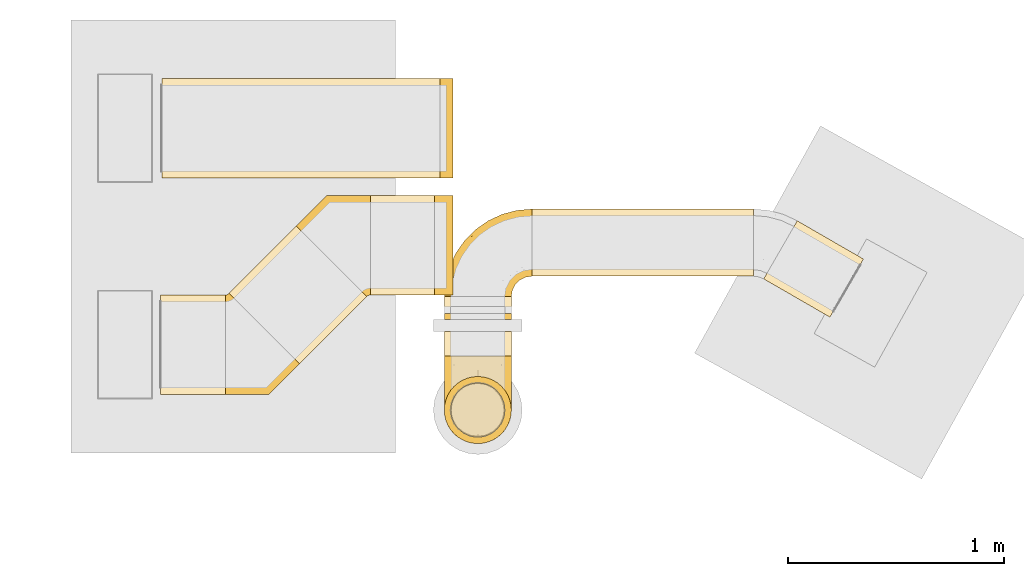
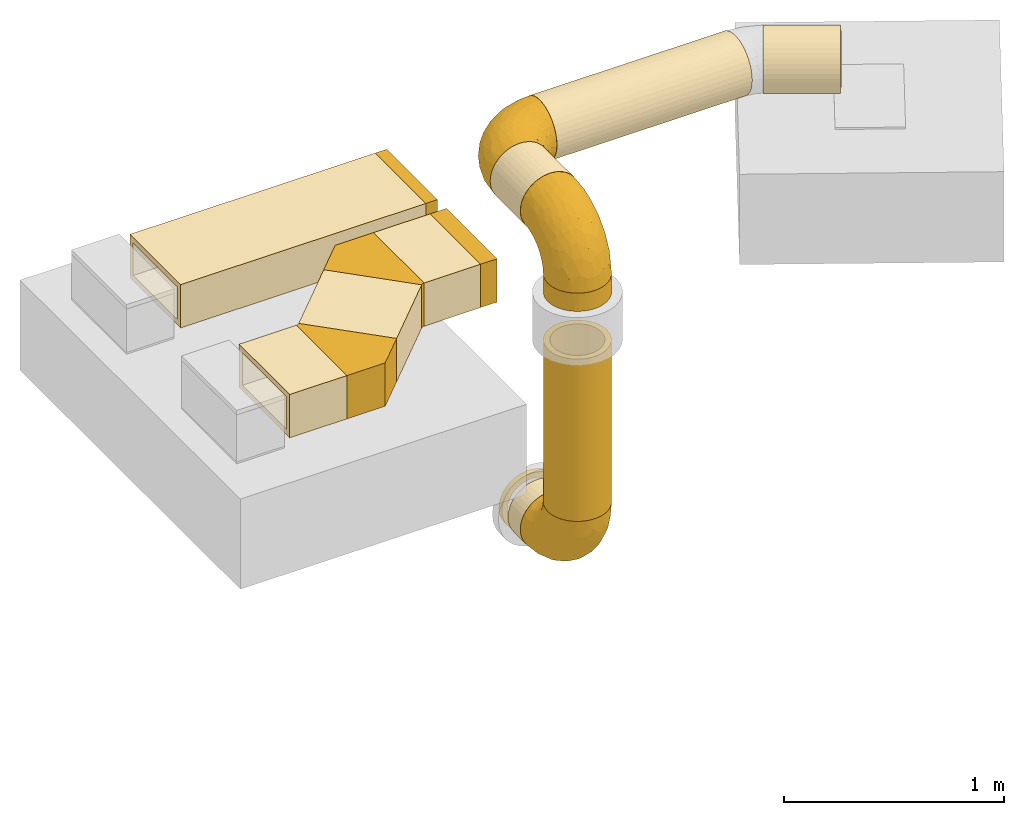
# One storey, part 1 of 9: 18 coverings.
"""IFC2X3 building model written with IfcOpenShell, lengths in millimetres."""

from ifc_helpers import new_model, entity, si_unit, converted_unit, derived_unit, direction, frame, origin_with_axes, origin_2d_with_axis, place, context, subcontext, project, spatial, hollow_rectangle, hollow_circle, extrude, open_shell, surface_model, source, transform, mapped, element, save


model = new_model("IFC2X3")

# Units and contexts
model_context = context("Model", 3, precision=0.01, world=frame((0.0, 4.29681676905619e-09, 0.0)), true_north=direction((4.01073788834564e-13, 1.0)))
plan_context = context("Plan", 3, precision=0.01, world=frame((0.0, 4.29681676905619e-09, 0.0)), true_north=direction((4.01073788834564e-13, 1.0)))
body_context = subcontext(model_context, "Body", "Model", "MODEL_VIEW")
ifc_project = project(units=[converted_unit("PLANEANGLEUNIT", "DEGREE", entity("IfcPositiveLengthMeasure", 0.0174532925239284), si_unit("PLANEANGLEUNIT", "RADIAN"), dimensions=[0, 0, 0, 0, 0, 0, 0]), si_unit("AREAUNIT", "SQUARE_METRE"), si_unit("LENGTHUNIT", "METRE", prefix="MILLI"), si_unit("MASSUNIT", "GRAM", prefix="KILO"), si_unit("POWERUNIT", "WATT"), si_unit("PRESSUREUNIT", "PASCAL"), si_unit("FORCEUNIT", "NEWTON", prefix="KILO"), si_unit("ELECTRICVOLTAGEUNIT", "VOLT"), si_unit("ELECTRICCURRENTUNIT", "AMPERE"), si_unit("THERMODYNAMICTEMPERATUREUNIT", "DEGREE_CELSIUS"), si_unit("TIMEUNIT", "SECOND"), si_unit("VOLUMEUNIT", "CUBIC_METRE"), derived_unit("LINEARVELOCITYUNIT", [(si_unit("LENGTHUNIT", "METRE"), 1), (si_unit("TIMEUNIT", "SECOND"), -1)]), derived_unit("VOLUMETRICFLOWRATEUNIT", [(si_unit("VOLUMEUNIT", "CUBIC_METRE"), 1), (si_unit("TIMEUNIT", "SECOND"), -1)]), derived_unit("THERMALTRANSMITTANCEUNIT", [(si_unit("POWERUNIT", "WATT"), 1), (si_unit("THERMODYNAMICTEMPERATUREUNIT", "KELVIN"), -1), (si_unit("AREAUNIT", "SQUARE_METRE"), -1)]), derived_unit("SOUNDPRESSUREUNIT", [(si_unit("PRESSUREUNIT", "PASCAL"), 1)])], contexts=[model_context, plan_context])

# Site, building, storey
site_placement = place(None, frame((0.0, -4.29681676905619e-09, 0.0), z_axis=(0.0, 0.0, 1.0), x_axis=(1.0, 0.0, 0.0)))
site = spatial("IfcSite", under=ifc_project, at=site_placement, CompositionType="ELEMENT")
building_placement = place(site_placement, frame((0.0, 4.29681676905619e-09, 0.0), z_axis=(0.0, 0.0, 1.0), x_axis=(1.0, 0.0, 0.0)))
building = spatial("IfcBuilding", under=site, at=building_placement, Name="mc-building", CompositionType="ELEMENT")
storey_placement = place(building_placement, frame((0.0, 0.0, 210200.0), z_axis=(0.0, 0.0, 1.0), x_axis=(1.0, 0.0, 0.0)))
storey = spatial("IfcBuildingStorey", under=building, at=storey_placement, Name="Nivå F -0,7m", CompositionType="ELEMENT", Elevation=210200.0)

# Coverings
shared_shape_1 = source(origin_with_axes(), body_context, "Body", "SweptSolid", [
    extrude(hollow_rectangle(XDim=460.0, YDim=240.0, WallThickness=30.0, at=origin_2d_with_axis()), frame((0.0, 0.0, 0.0), z_axis=(1.0, 0.0, 0.0), x_axis=(0.0, 1.0, 0.0)), (0.0, 0.0, 1.0), 296.5),
])
covering_1_placement = place(storey_placement, frame((523684.47443, 456423.18324, 3350.0), z_axis=(0.0, 0.0, 1.0), x_axis=(1.0, 0.0, 0.0)))
element("IfcCovering", 1, at=covering_1_placement, inside=storey, Name="EI30-30", PredefinedType="INSULATION", context=body_context, shape_type="MappedRepresentation", body=[
    mapped(shared_shape_1, transform((0.0, 0.0, 0.0), scale=1.0)),
])
shared_shape_2 = source(origin_with_axes(), body_context, "Body", "SweptSolid", [
    extrude(hollow_rectangle(XDim=460.0, YDim=240.0, WallThickness=30.0, at=origin_2d_with_axis()), frame((0.0, 0.0, 0.0), z_axis=(1.0, 0.0, 0.0), x_axis=(0.0, 1.0, 0.0)), (0.0, 0.0, 1.0), 439.3),
])
covering_2_placement = place(storey_placement, frame((523505.13707, 456348.89928, 3350.0), z_axis=(0.0, 0.0, 1.0), x_axis=(-0.707106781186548, -0.707106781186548, 0.0)))
element("IfcCovering", 2, at=covering_2_placement, inside=storey, Name="EI30-30", PredefinedType="INSULATION", context=body_context, shape_type="MappedRepresentation", body=[
    mapped(shared_shape_2, transform((0.0, 0.0, 0.0), scale=1.0)),
])
shared_shape_3 = source(origin_with_axes(), body_context, "Body", "SurfaceModel", [
    surface_model("IfcShellBasedSurfaceModel", [(-36.096, 230.0, -120.0), (50.0, 230.0, -120.0), (-36.096, -230.0, -120.0), (50.0, -230.0, -120.0), (-36.096, -230.0, 120.0), (50.0, -230.0, 120.0), (50.0, 230.0, 120.0), (-36.096, 230.0, 120.0)], [open_shell([[[0, 1, 2]], [[3, 2, 1]], [[4, 5, 6]], [[6, 7, 4]], [[3, 1, 6]], [[6, 5, 3]], [[2, 3, 5]], [[5, 4, 2]], [[0, 2, 4]], [[4, 7, 0]], [[1, 0, 6]], [[7, 6, 0]]])]),
])
covering_3_placement = place(storey_placement, frame((524030.93348, 456423.18324, 3350.0), z_axis=(0.0, 0.0, -1.0), x_axis=(-1.0, 0.0, 0.0)))
element("IfcCovering", 3, at=covering_3_placement, inside=storey, Name="EI30-30", PredefinedType="INSULATION", context=body_context, shape_type="MappedRepresentation", body=[
    mapped(shared_shape_3, transform((0.0, 0.0, 0.0), scale=1.0)),
])
shared_shape_4 = source(origin_with_axes(), body_context, "Body", "SweptSolid", [
    extrude(hollow_rectangle(XDim=460.0, YDim=240.0, WallThickness=30.0, at=origin_2d_with_axis()), frame((0.0, 0.0, 0.0), z_axis=(1.0, 0.0, 0.0), x_axis=(0.0, 1.0, 0.0)), (0.0, 0.0, 1.0), 1285.0),
])
covering_4_placement = place(storey_placement, frame((524005.93348, 456964.0, 3350.0), z_axis=(0.0, 0.0, 1.0), x_axis=(-1.0, 0.0, 0.0)))
element("IfcCovering", 4, at=covering_4_placement, inside=storey, Name="EI30-30", PredefinedType="INSULATION", context=body_context, shape_type="MappedRepresentation", body=[
    mapped(shared_shape_4, transform((0.0, 0.0, 0.0), scale=1.0)),
])
shared_shape_5 = source(origin_with_axes(), body_context, "Body", "SurfaceModel", [
    surface_model("IfcShellBasedSurfaceModel", [(-26.91148, 250.0, 152.6459), (0.0, 250.0, 155.0), (-53.01196, 250.0, 145.65278), (-145.65269, 250.0, 53.0122), (-155.0, 250.0, 0.0), (-152.64582, 250.0, 26.91195), (99.63399, 250.0, -118.73529), (134.23249, 250.0, -77.50252), (118.73482, 250.0, -99.63454), (-26.91195, 250.0, -152.64582), (-99.63454, 250.0, -118.73482), (-118.73529, 250.0, -99.63399), (-250.0, 77.5, -134.23394), (-250.0, 134.23394, -77.5), (-250.0, 109.60155, -109.60155), (-250.0, 109.60155, 109.60155), (-250.0, 40.11695, 149.7185), (-250.0, 77.5, 134.23394), (-150.31078, -137.47961, 38.67299), (-179.67248, -148.84714, 0.0), (-111.48184, -130.57551, 0.0), (-250.0, -149.7185, 40.11695), (-250.0, -155.0, 0.0), (130.57551, 111.48184, 0.0), (145.01049, 177.05911, 31.86841), (114.0188, 83.02302, 37.12446), (100.74029, 47.5, 0.0), (-47.5, -100.74029, 0.0), (-83.00007, -114.03065, 37.04192), (10.32898, -60.248, 0.0), (-20.99283, -79.08825, 35.29449), (-183.11942, -134.92229, 65.05), (-191.0855, -93.92643, 119.31754), (-250.0, -77.5, 134.23394), (-250.0, -109.60155, 109.60155), (3.78518, 74.23487, 143.45185), (-49.54875, 49.54875, 151.34078), (-48.89804, 3.01457, 139.04106), (52.55606, 56.70038, 110.16688), (18.59113, 47.09169, 128.53788), (1.69806, -1.69807, 113.1308), (65.9981, 2.35675, 32.86941), (-129.01187, -24.20514, 146.81223), (-117.30413, -78.97391, 114.26733), (-100.74226, -44.96137, 132.41076), (-179.96963, -60.07628, 139.34304), (26.91195, 250.0, 152.64582), (-6.26802, 194.36977, 155.0), (11.73841, 141.12202, 151.34078), (-194.36977, 6.26802, 155.0), (-250.0, 0.0, 155.0), (-250.0, -40.11695, 149.7185), (-167.16928, -117.53346, 89.2134), (-250.0, -134.23394, 77.5), (48.8239, 143.19487, 139.60898), (-141.52906, 24.75778, 155.0), (-19.26822, -49.20189, 87.65463), (43.33387, 11.85264, 87.65463), (77.50252, 250.0, 134.23249), (53.0122, 250.0, 145.65269), (60.248, -10.32898, 0.0), (118.73529, 250.0, 99.63399), (99.63454, 250.0, 118.73482), (106.6963, 176.9469, 104.91009), (-94.12755, 54.54213, 155.0), (148.84714, 179.67248, 0.0), (134.23266, 250.0, 77.50222), (132.00028, 159.3803, 60.7432), (145.65278, 250.0, 53.01196), (152.6459, 250.0, 26.91148), (97.31699, 87.1286, 78.57178), (-90.5967, -106.32507, 65.7685), (77.14782, 127.99364, 119.13315), (155.0, 250.0, 0.0), (-24.75778, 141.52906, 155.0), (-54.54213, 94.12755, 155.0), (-55.66742, -44.08346, 116.27769), (72.83054, 28.50652, 63.24823), (-29.47061, -73.39879, 63.41636), (28.39752, -28.39753, 58.06388), (-101.82394, -94.39247, 91.7654), (-211.50444, 37.10471, 151.30275), (-250.0, 134.23394, 77.5), (-222.10632, 146.9083, 59.31593), (-250.0, 149.7185, 40.11695), (-134.03653, 65.4452, 151.65306), (-172.43212, 44.51154, 151.99785), (-199.10186, 66.2344, 143.20133), (-103.0168, 103.0168, 149.16332), (-104.18631, 144.12888, 138.39182), (-128.48395, 119.82049, 137.30499), (-116.63658, 206.11385, 109.6018), (-147.81259, 184.16703, 86.76144), (-126.21683, 179.79778, 111.4752), (-66.94837, 134.98104, 151.26715), (-192.62287, 157.0072, 64.96066), (-212.31553, 159.02165, 32.63355), (-250.0, 155.0, 0.0), (-231.57502, 154.29333, 27.52808), (-175.09702, 175.09702, 57.17077), (-188.85619, 173.03546, 31.79467), (-152.21684, 227.75786, 40.11475), (-225.06808, 125.44046, 94.35802), (-139.49128, 227.54601, 72.05594), (-118.73482, 250.0, 99.63454), (-134.23249, 250.0, 77.50252), (-161.05532, 208.65752, 30.7628), (-159.64963, 220.64338, 0.0), (-216.88296, 97.9221, 122.96977), (-172.48936, 121.3057, 118.62402), (-143.88489, 158.0686, 109.6018), (-172.1176, 149.40919, 94.60101), (-149.1074, 207.38658, 65.5067), (-44.48695, 166.67228, 152.40639), (-99.63399, 250.0, 118.73529), (-45.23121, 203.93797, 149.71919), (-75.08742, 215.05799, 137.45524), (-79.65543, 179.14375, 140.47743), (-152.85644, 95.39688, 139.57382), (-175.64811, 186.52699, 29.12042), (-194.16041, 173.14339, 0.0), (-77.50222, 250.0, 134.23266), (-163.0453, 192.39798, 52.89026), (-186.1263, 95.2174, 131.18503), (-198.57725, 114.50527, 113.948), (-197.22415, 134.4518, 94.35801), (-173.14339, 194.16041, 0.0), (-160.49011, 167.2314, 87.28456), (-207.40189, 166.39651, 0.0), (-220.64338, 159.64963, 0.0), (-6.26802, 194.36977, -155.0), (-45.23159, 203.93792, -149.7191), (-231.57502, 154.29333, -27.52809), (-79.65579, 179.14361, -140.4773), (-104.18615, 144.12866, -138.39195), (-126.21663, 179.79709, -111.4757), (-250.0, 149.7185, -40.11695), (-222.10645, 146.90827, -59.31593), (-212.31553, 159.02163, -32.63362), (-197.22448, 134.45163, -94.35802), (-225.06828, 125.44042, -94.35802), (-209.34959, 99.76029, -122.96977), (-188.85591, 173.03582, -31.79413), (-175.64795, 186.52719, -29.12039), (-54.54213, 94.12755, -155.0), (-66.94837, 134.98104, -151.26715), (-24.75778, 141.52906, -155.0), (-250.0, 0.0, -155.0), (-250.0, 40.11695, -149.7185), (-212.58185, 33.05708, -152.09783), (-218.84, 61.87911, -143.20132), (-192.08237, 79.96749, -138.10323), (-139.4915, 227.54621, -72.05544), (-116.63717, 206.11369, -109.6013), (-149.10742, 207.38685, -65.50643), (-152.21691, 227.75797, -40.11439), (-152.85642, 95.39688, -139.57382), (-134.03653, 65.44519, -151.65306), (-181.34634, 53.79909, -149.16332), (-54.25738, 169.08861, -150.22059), (-94.12755, 54.54213, -155.0), (-141.52906, 24.75778, -155.0), (-103.0168, 103.0168, -149.16332), (-161.05527, 208.65769, -30.76274), (-152.6459, 250.0, -26.91148), (-145.65278, 250.0, -53.01196), (-77.50252, 250.0, -134.23249), (-75.0879, 215.05791, -137.455), (-163.04526, 192.39807, -52.8902), (-147.81236, 184.16728, -86.76151), (-162.56577, 168.46283, -83.71815), (-194.36977, 6.26802, -155.0), (-134.23266, 250.0, -77.50222), (-192.62336, 157.00726, -64.96002), (-172.11825, 149.4093, -94.60037), (-53.0122, 250.0, -145.65269), (-172.48929, 121.3059, -118.62391), (0.0, 250.0, -155.0), (-128.48395, 119.82045, -137.30501), (-143.8857, 158.06846, -109.6013), (-175.09712, 175.09712, -57.17035), (-49.54874, 49.54874, -151.34077), (-82.55862, -115.94529, -28.09066), (97.31694, 87.12913, -78.57223), (132.00018, 159.38037, -60.74346), (114.01879, 83.02305, -37.12457), (-141.12202, -11.73841, -151.34077), (-74.23487, -3.78519, -143.45185), (24.20795, 129.00916, -146.811), (75.36499, 19.34759, -43.30762), (64.5533, 24.07199, -71.96309), (15.01922, -19.30223, -87.65473), (1.69807, -1.69808, -113.13079), (58.44102, 51.67026, -102.00775), (56.61241, 146.31291, -136.37357), (41.70877, 191.71531, -147.55056), (-148.62141, -53.68892, -138.21036), (-250.0, -40.11695, -149.7185), (-152.15255, -128.26677, -64.98992), (-250.0, -134.23394, -77.5), (-167.16928, -117.53346, -89.2134), (106.69586, 176.94712, -104.91062), (-250.0, -149.7185, -40.11695), (-191.0855, -93.92643, -119.31754), (-117.30413, -78.97391, -114.26733), (-250.0, -109.60155, -109.60155), (-250.0, -77.5, -134.23394), (77.14742, 127.99367, -119.13348), (-150.31078, -137.47961, -38.67299), (-20.99285, -79.08823, -35.29459), (-90.5967, -106.32507, -65.7685), (77.50222, 250.0, -134.23266), (-27.87966, -67.01887, -72.32859), (26.91148, 250.0, -152.6459), (53.01196, 250.0, -145.65278), (-46.67048, -55.30269, -101.87959), (145.01038, 177.05863, -31.8685), (-64.32661, -34.77701, -126.22307), (28.39745, -28.39746, -58.06412), (34.97818, -34.24515, -27.71526), (152.64582, 250.0, -26.91195), (-3.01708, 48.89655, -139.04156), (33.92306, 56.80652, -123.68528), (145.65269, 250.0, -53.0122), (-96.94173, -92.23558, -91.78409)], [open_shell([[[0, 1, 2]], [[3, 4, 5]], [[6, 7, 8]], [[9, 10, 11]], [[12, 13, 14]], [[15, 16, 17]], [[18, 19, 20]], [[19, 21, 22]], [[23, 24, 25]], [[23, 25, 26]], [[20, 27, 28]], [[29, 30, 27]], [[31, 21, 18]], [[32, 33, 34]], [[35, 36, 37]], [[30, 28, 27]], [[38, 39, 40]], [[41, 30, 29]], [[37, 36, 42]], [[43, 44, 45]], [[46, 47, 48]], [[49, 50, 51]], [[31, 52, 53]], [[54, 35, 39]], [[45, 51, 33]], [[36, 55, 42]], [[56, 57, 40]], [[49, 51, 42]], [[54, 58, 59]], [[48, 36, 35]], [[42, 55, 49]], [[60, 41, 29]], [[61, 62, 63]], [[55, 36, 64]], [[25, 41, 26]], [[65, 24, 23]], [[66, 67, 68]], [[34, 53, 52]], [[24, 65, 69]], [[67, 66, 63]], [[67, 63, 70]], [[67, 24, 68]], [[18, 28, 71]], [[61, 63, 66]], [[72, 70, 63]], [[65, 73, 69]], [[54, 46, 48]], [[63, 62, 58]], [[47, 46, 1]], [[48, 74, 75]], [[57, 38, 40]], [[40, 76, 56]], [[37, 44, 76]], [[48, 47, 74]], [[77, 70, 57]], [[36, 48, 75]], [[21, 19, 18]], [[75, 64, 36]], [[67, 70, 25]], [[48, 35, 54]], [[63, 58, 72]], [[71, 52, 31]], [[78, 79, 56]], [[25, 77, 41]], [[44, 37, 42]], [[79, 57, 56]], [[39, 37, 40]], [[58, 54, 72]], [[46, 54, 59]], [[80, 52, 71]], [[32, 52, 43]], [[45, 44, 42]], [[76, 44, 43]], [[51, 45, 42]], [[45, 33, 32]], [[43, 52, 80]], [[37, 76, 40]], [[80, 76, 43]], [[78, 71, 28]], [[77, 57, 79]], [[38, 70, 72]], [[70, 38, 57]], [[72, 54, 39]], [[39, 38, 72]], [[37, 39, 35]], [[41, 77, 79]], [[25, 70, 77]], [[30, 41, 79]], [[41, 60, 26]], [[68, 24, 69]], [[25, 24, 67]], [[52, 32, 34]], [[45, 32, 43]], [[20, 28, 18]], [[78, 28, 30]], [[21, 31, 53]], [[71, 31, 18]], [[78, 80, 71]], [[76, 80, 56]], [[79, 78, 30]], [[80, 78, 56]], [[49, 81, 50]], [[82, 83, 84]], [[85, 86, 55]], [[87, 81, 86]], [[88, 89, 90]], [[91, 92, 93]], [[88, 64, 75]], [[55, 86, 49]], [[88, 94, 89]], [[83, 95, 96]], [[97, 84, 98]], [[95, 99, 100]], [[4, 101, 5]], [[102, 83, 82]], [[103, 104, 105]], [[55, 64, 85]], [[106, 101, 107]], [[15, 102, 82]], [[17, 16, 87]], [[108, 17, 87]], [[109, 110, 111]], [[91, 112, 92]], [[88, 75, 94]], [[113, 94, 74]], [[91, 114, 104]], [[47, 0, 115]], [[0, 2, 115]], [[115, 116, 117]], [[112, 101, 106]], [[1, 0, 47]], [[85, 88, 118]], [[2, 116, 115]], [[119, 120, 100]], [[2, 121, 116]], [[122, 92, 112]], [[117, 94, 113]], [[106, 122, 112]], [[105, 3, 103]], [[101, 103, 3]], [[123, 108, 87]], [[101, 3, 5]], [[116, 114, 91]], [[107, 101, 4]], [[99, 95, 111]], [[94, 75, 74]], [[101, 112, 103]], [[119, 100, 99]], [[15, 17, 108]], [[123, 118, 109]], [[47, 115, 113]], [[108, 124, 102]], [[83, 96, 98]], [[89, 94, 117]], [[93, 117, 91]], [[88, 90, 118]], [[88, 85, 64]], [[86, 118, 87]], [[108, 102, 15]], [[83, 102, 125]], [[107, 126, 106]], [[122, 119, 99]], [[119, 106, 126]], [[111, 110, 127]], [[127, 122, 99]], [[92, 110, 93]], [[106, 119, 122]], [[120, 119, 126]], [[100, 120, 128]], [[95, 83, 125]], [[129, 98, 96]], [[111, 95, 125]], [[129, 96, 128]], [[128, 96, 100]], [[100, 96, 95]], [[97, 98, 129]], [[83, 98, 84]], [[109, 111, 125]], [[110, 92, 127]], [[123, 124, 108]], [[109, 118, 90]], [[118, 86, 85]], [[87, 16, 81]], [[50, 81, 16]], [[49, 86, 81]], [[110, 89, 93]], [[117, 93, 89]], [[114, 116, 121]], [[91, 117, 116]], [[112, 91, 103]], [[104, 103, 91]], [[89, 110, 90]], [[109, 90, 110]], [[118, 123, 87]], [[124, 109, 125]], [[109, 124, 123]], [[102, 124, 125]], [[47, 113, 74]], [[117, 113, 115]], [[122, 127, 92]], [[99, 111, 127]], [[9, 130, 131]], [[97, 129, 132]], [[133, 134, 135]], [[13, 136, 137]], [[128, 138, 129]], [[137, 139, 140]], [[14, 140, 141]], [[142, 120, 143]], [[144, 145, 146]], [[140, 14, 13]], [[147, 148, 149]], [[129, 138, 132]], [[148, 150, 149]], [[150, 141, 151]], [[152, 11, 153]], [[12, 14, 141]], [[152, 154, 155]], [[156, 157, 158]], [[159, 130, 146]], [[134, 133, 145]], [[160, 161, 157]], [[145, 144, 162]], [[107, 155, 163]], [[134, 145, 162]], [[155, 164, 165]], [[4, 155, 107]], [[152, 155, 165]], [[166, 167, 10]], [[168, 169, 170]], [[164, 155, 4]], [[126, 143, 120]], [[160, 157, 162]], [[161, 171, 158]], [[165, 172, 152]], [[173, 174, 139]], [[175, 167, 166]], [[146, 145, 159]], [[167, 175, 131]], [[144, 160, 162]], [[139, 174, 176]], [[175, 9, 131]], [[153, 135, 169]], [[177, 130, 9]], [[162, 178, 134]], [[163, 155, 154]], [[131, 133, 167]], [[163, 168, 143]], [[12, 150, 148]], [[176, 141, 139]], [[11, 10, 153]], [[150, 151, 158]], [[137, 136, 132]], [[131, 159, 133]], [[178, 162, 156]], [[135, 179, 169]], [[158, 157, 161]], [[162, 157, 156]], [[137, 140, 13]], [[141, 140, 139]], [[168, 163, 154]], [[126, 107, 163]], [[169, 168, 154]], [[143, 168, 180]], [[153, 169, 154]], [[179, 174, 170]], [[143, 180, 142]], [[163, 143, 126]], [[173, 142, 180]], [[128, 120, 142]], [[180, 170, 174]], [[137, 173, 139]], [[138, 142, 173]], [[142, 138, 128]], [[173, 137, 138]], [[137, 132, 138]], [[97, 132, 136]], [[180, 174, 173]], [[179, 178, 176]], [[179, 176, 174]], [[176, 156, 151]], [[133, 135, 153]], [[134, 179, 135]], [[11, 152, 172]], [[153, 154, 152]], [[133, 153, 167]], [[10, 167, 153]], [[141, 150, 12]], [[149, 150, 158]], [[158, 171, 149]], [[147, 149, 171]], [[176, 151, 141]], [[156, 158, 151]], [[176, 178, 156]], [[179, 134, 178]], [[159, 131, 130]], [[145, 133, 159]], [[168, 170, 180]], [[179, 170, 169]], [[161, 160, 181]], [[27, 20, 182]], [[183, 184, 185]], [[186, 147, 171]], [[186, 161, 181]], [[186, 181, 187]], [[146, 188, 181]], [[183, 189, 190]], [[191, 192, 193]], [[160, 144, 181]], [[194, 188, 195]], [[196, 197, 186]], [[198, 199, 200]], [[201, 8, 7]], [[19, 22, 202]], [[203, 196, 204]], [[205, 206, 203]], [[183, 207, 201]], [[200, 199, 205]], [[20, 19, 208]], [[209, 29, 27]], [[210, 209, 182]], [[207, 194, 211]], [[182, 20, 208]], [[200, 210, 198]], [[193, 183, 190]], [[130, 188, 146]], [[212, 209, 210]], [[26, 60, 189]], [[161, 186, 171]], [[195, 130, 213]], [[213, 130, 177]], [[198, 202, 199]], [[213, 214, 195]], [[6, 8, 201]], [[191, 215, 192]], [[183, 185, 189]], [[147, 186, 197]], [[196, 186, 187]], [[211, 6, 201]], [[19, 202, 208]], [[7, 184, 201]], [[207, 211, 201]], [[185, 184, 216]], [[215, 217, 192]], [[218, 219, 209]], [[23, 185, 216]], [[219, 29, 209]], [[65, 216, 220]], [[221, 181, 188]], [[73, 65, 220]], [[185, 23, 26]], [[146, 181, 144]], [[184, 183, 201]], [[193, 192, 222]], [[7, 223, 184]], [[217, 196, 187]], [[187, 181, 221]], [[60, 219, 189]], [[223, 220, 216]], [[197, 196, 206]], [[221, 188, 194]], [[217, 221, 192]], [[203, 200, 205]], [[224, 200, 204]], [[214, 211, 194]], [[130, 195, 188]], [[194, 195, 214]], [[194, 207, 222]], [[189, 219, 218]], [[29, 219, 60]], [[189, 218, 190]], [[26, 189, 185]], [[191, 190, 218]], [[190, 191, 193]], [[222, 192, 221]], [[207, 183, 193]], [[218, 212, 191]], [[215, 224, 204]], [[215, 191, 212]], [[217, 215, 204]], [[196, 217, 204]], [[217, 187, 221]], [[209, 212, 218]], [[212, 210, 224]], [[194, 222, 221]], [[207, 193, 222]], [[212, 224, 215]], [[200, 224, 210]], [[216, 65, 23]], [[223, 216, 184]], [[196, 203, 206]], [[200, 203, 204]], [[210, 182, 208]], [[27, 182, 209]], [[210, 208, 198]], [[198, 208, 202]], [[68, 69, 66]], [[114, 121, 2]], [[205, 199, 202]], [[205, 202, 206]], [[34, 21, 53]], [[59, 58, 46]], [[1, 46, 58]], [[1, 58, 2]], [[61, 66, 58]], [[105, 58, 66]], [[62, 61, 58]], [[66, 165, 105]], [[114, 2, 105]], [[104, 114, 105]], [[4, 3, 105]], [[58, 105, 2]], [[165, 4, 105]], [[66, 69, 220]], [[7, 66, 220]], [[223, 7, 220]], [[66, 7, 211]], [[211, 7, 6]], [[211, 214, 213]], [[211, 165, 66]], [[177, 211, 213]], [[11, 172, 165]], [[11, 165, 9]], [[164, 4, 165]], [[10, 175, 166]], [[175, 10, 9]], [[165, 211, 9]], [[177, 9, 211]], [[220, 69, 73]], [[97, 136, 13]], [[84, 97, 13]], [[84, 13, 12]], [[34, 15, 12]], [[84, 15, 82]], [[84, 12, 15]], [[50, 16, 34]], [[16, 15, 34]], [[147, 12, 148]], [[202, 147, 197]], [[202, 197, 206]], [[147, 202, 34]], [[51, 34, 33]], [[50, 34, 51]], [[34, 202, 21]], [[22, 21, 202]], [[34, 12, 147]]])]),
])
for number, where, z_axis, x_axis, name in (
    (5, (524180.93348, 456435.47356, 3920.0), (0.0, 0.0, 1.0), (-1.0, 0.0, 0.0), "EI30-30"),
    (6, (524180.93348, 455661.93875, 3920.0), (1.0, 0.0, 0.0), (0.0, -1.0, 0.0), "EI30-30"),
    (7, (524180.93348, 455661.93875, 2156.11027999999), (1.0, 0.0, 0.0), (0.0, 0.0, -1.0), "EI30-30"),
):
    element("IfcCovering", number, at=place(storey_placement, frame(where, z_axis=z_axis, x_axis=x_axis)), inside=storey, Name=name, PredefinedType="INSULATION", context=body_context, shape_type="MappedRepresentation", body=[
        mapped(shared_shape_5, transform((0.0, 0.0, 0.0), scale=1.0)),
    ])
shared_shape_6 = source(origin_with_axes(), body_context, "Body", "SweptSolid", [
    extrude(hollow_circle(Radius=155.0, WallThickness=30.0, at=origin_2d_with_axis()), frame((0.0, 0.0, 0.0), z_axis=(1.0, 0.0, 0.0), x_axis=(0.0, 1.0, 0.0)), (0.0, 0.0, 1.0), 273.5),
])
covering_5_placement = place(storey_placement, frame((524180.93348, 456185.47356, 3920.0), z_axis=(0.0, 0.0, 1.0), x_axis=(0.0, -1.0, 0.0)))
element("IfcCovering", 8, at=covering_5_placement, inside=storey, Name="EI30-30", PredefinedType="INSULATION", context=body_context, shape_type="MappedRepresentation", body=[
    mapped(shared_shape_6, transform((0.0, 0.0, 0.0), scale=1.0)),
])
shared_shape_7 = source(origin_with_axes(), body_context, "Body", "SweptSolid", [
    extrude(hollow_circle(Radius=155.0, WallThickness=30.0, at=origin_2d_with_axis()), frame((0.0, 0.0, 0.0), z_axis=(1.0, 0.0, 0.0), x_axis=(0.0, 1.0, 0.0)), (0.0, 0.0, 1.0), 898.3),
])
covering_6_placement = place(storey_placement, frame((524180.93348, 455661.93875, 3304.37533000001), z_axis=(0.0, -1.0, 0.0), x_axis=(0.0, 0.0, -1.0)))
element("IfcCovering", 9, at=covering_6_placement, inside=storey, Name="EI30-30", PredefinedType="INSULATION", context=body_context, shape_type="MappedRepresentation", body=[
    mapped(shared_shape_7, transform((0.0, 0.0, 0.0), scale=1.0)),
])
shared_shape_8 = source(origin_with_axes(), body_context, "Body", "SweptSolid", [
    extrude(hollow_circle(Radius=155.0, WallThickness=30.0, at=origin_2d_with_axis()), frame((0.0, 0.0, 0.0), z_axis=(1.0, 0.0, 0.0), x_axis=(0.0, 1.0, 0.0)), (0.0, 0.0, 1.0), 28.5),
])
covering_7_placement = place(storey_placement, frame((524180.93348, 456108.17026, 2156.11027999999), z_axis=(0.0, 0.0, 1.0), x_axis=(0.0, -1.0, 0.0)))
element("IfcCovering", 10, at=covering_7_placement, inside=storey, Name="EI30-30", PredefinedType="INSULATION", context=body_context, shape_type="MappedRepresentation", body=[
    mapped(shared_shape_8, transform((0.0, 0.0, 0.0), scale=1.0)),
])
shared_shape_9 = source(origin_with_axes(), body_context, "Body", "SweptSolid", [
    extrude(hollow_circle(Radius=155.0, WallThickness=30.0, at=origin_2d_with_axis()), frame((0.0, 0.0, 0.0), z_axis=(1.0, 0.0, 0.0), x_axis=(0.0, 1.0, 0.0)), (0.0, 0.0, 1.0), 100.6),
])
covering_8_placement = place(storey_placement, frame((524180.93348, 455661.93875, 3569.37533000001), z_axis=(0.0, 1.0, 0.0), x_axis=(0.0, 0.0, 1.0)))
element("IfcCovering", 11, at=covering_8_placement, inside=storey, Name="EI30-30", PredefinedType="INSULATION", context=body_context, shape_type="MappedRepresentation", body=[
    mapped(shared_shape_9, transform((0.0, 0.0, 0.0), scale=1.0)),
])
shared_shape_10 = source(origin_with_axes(), body_context, "Body", "SweptSolid", [
    extrude(hollow_circle(Radius=155.0, WallThickness=30.0, at=origin_2d_with_axis()), frame((0.0, 0.0, 0.0), z_axis=(1.0, 0.0, 0.0), x_axis=(0.0, 1.0, 0.0)), (0.0, 0.0, 1.0), 1023.4),
])
covering_9_placement = place(storey_placement, frame((524430.93348, 456435.47356, 3920.0), z_axis=(0.0, 0.0, 1.0), x_axis=(1.0, 0.0, 0.0)))
element("IfcCovering", 12, at=covering_9_placement, inside=storey, Name="EI30-30", PredefinedType="INSULATION", context=body_context, shape_type="MappedRepresentation", body=[
    mapped(shared_shape_10, transform((0.0, 0.0, 0.0), scale=1.0)),
])
shared_shape_11 = source(origin_with_axes(), body_context, "Body", "SweptSolid", [
    extrude(hollow_circle(Radius=155.0, WallThickness=30.0, at=origin_2d_with_axis()), frame((0.0, 0.0, 0.0), z_axis=(1.0, 0.0, 0.0), x_axis=(0.0, 1.0, 0.0)), (0.0, 0.0, 1.0), 353.0),
])
covering_10_placement = place(storey_placement, frame((525579.33256, 456401.97991, 3920.0), z_axis=(0.0, 0.0, 1.0), x_axis=(0.866025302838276, -0.500000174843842, 0.0)))
element("IfcCovering", 13, at=covering_10_placement, inside=storey, Name="EI30-30", PredefinedType="INSULATION", context=body_context, shape_type="MappedRepresentation", body=[
    mapped(shared_shape_11, transform((0.0, 0.0, 0.0), scale=1.0)),
])
shared_shape_12 = source(origin_with_axes(), body_context, "Body", "SweptSolid", [
    extrude(hollow_circle(Radius=155.0, WallThickness=30.0, at=origin_2d_with_axis()), frame((0.0, 0.0, 0.0), z_axis=(1.0, 0.0, 0.0), x_axis=(0.0, 1.0, 0.0)), (0.0, 0.0, 1.0), 112.7),
])
covering_11_placement = place(storey_placement, frame((524180.93348, 456024.64055, 2156.11027999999), z_axis=(0.0, 0.0, 1.0), x_axis=(0.0, -1.0, 0.0)))
element("IfcCovering", 14, at=covering_11_placement, inside=storey, Name="EI30-30", PredefinedType="INSULATION", context=body_context, shape_type="MappedRepresentation", body=[
    mapped(shared_shape_12, transform((0.0, 0.0, 0.0), scale=1.0)),
])
shared_shape_13 = source(origin_with_axes(), body_context, "Body", "SweptSolid", [
    extrude(hollow_rectangle(XDim=460.0, YDim=240.0, WallThickness=30.0, at=origin_2d_with_axis()), frame((0.0, 0.0, 0.0), z_axis=(1.0, 0.0, 0.0), x_axis=(0.0, 1.0, 0.0)), (0.0, 0.0, 1.0), 299.9),
])
covering_12_placement = place(storey_placement, frame((523015.18957, 455964.00517, 3350.0), z_axis=(0.0, 0.0, 1.0), x_axis=(-1.0, 0.0, 0.0)))
element("IfcCovering", 15, at=covering_12_placement, inside=storey, Name="EI30-30", PredefinedType="INSULATION", context=body_context, shape_type="MappedRepresentation", body=[
    mapped(shared_shape_13, transform((0.0, 0.0, 0.0), scale=1.0)),
])
shared_shape_14 = source(origin_with_axes(), body_context, "Body", "SurfaceModel", [
    surface_model("IfcShellBasedSurfaceModel", [(95.26912, -230.0, 120.0), (236.91853, -88.35059, 120.0), (-95.89972, 231.52241, 120.0), (-105.05339, -230.0, 120.0), (-91.82577, 233.7993, 120.0), (-88.39043, 236.95836, 120.0), (-100.39044, 230.2517, 120.0), (-105.05339, 230.05632, 120.0), (-95.89972, 231.52241, -120.0), (-91.82577, 233.7993, -120.0), (236.91853, -88.35059, -120.0), (-105.05339, 230.05632, -120.0), (-100.39044, 230.2517, -120.0), (-105.05339, -230.0, -120.0), (95.26912, -230.0, -120.0), (-88.39043, 236.95836, -120.0)], [open_shell([[[0, 1, 2]], [[2, 3, 0]], [[4, 1, 5]], [[4, 2, 1]], [[6, 7, 3]], [[2, 6, 3]], [[8, 9, 10]], [[11, 12, 13]], [[8, 13, 12]], [[10, 14, 8]], [[13, 8, 14]], [[9, 15, 10]], [[5, 1, 10]], [[10, 15, 5]], [[9, 4, 5]], [[15, 9, 5]], [[8, 4, 9]], [[8, 2, 4]], [[11, 7, 6]], [[2, 12, 6]], [[11, 6, 12]], [[8, 12, 2]], [[3, 7, 11]], [[11, 13, 3]], [[0, 3, 13]], [[13, 14, 0]], [[1, 0, 14]], [[14, 10, 1]]])]),
])
for number, where, z_axis, x_axis, name in (
    (16, (523579.42104, 456423.18324, 3350.0), (0.0, 0.0, 1.0), (-1.0, 0.0, 0.0), "EI30-30"),
    (17, (523120.24296, 455964.00517, 3350.0), (0.0, 0.0, 1.0), (1.0, 0.0, 0.0), "EI30-30"),
):
    element("IfcCovering", number, at=place(storey_placement, frame(where, z_axis=z_axis, x_axis=x_axis)), inside=storey, Name=name, PredefinedType="INSULATION", context=body_context, shape_type="MappedRepresentation", body=[
        mapped(shared_shape_14, transform((0.0, 0.0, 0.0), scale=1.0)),
    ])
shared_shape_15 = source(origin_with_axes(), body_context, "Body", "SurfaceModel", [
    surface_model("IfcShellBasedSurfaceModel", [(-36.096, 230.0, -120.0), (-36.096, -230.0, -120.0), (-36.096, -230.0, 120.0), (-36.096, 230.0, 120.0), (25.0, 230.0, -120.0), (25.0, -230.0, -120.0), (25.0, -230.0, 120.0), (25.0, 230.0, 120.0)], [open_shell([[[0, 1, 2]], [[2, 3, 0]], [[0, 4, 1]], [[5, 1, 4]], [[2, 6, 7]], [[7, 3, 2]], [[5, 4, 7]], [[7, 6, 5]], [[1, 5, 2]], [[6, 2, 5]], [[4, 0, 3]], [[3, 7, 4]]])]),
])
covering_13_placement = place(storey_placement, frame((524030.93348, 456964.0, 3350.0), z_axis=(0.0, 0.0, -1.0), x_axis=(-1.0, 0.0, 0.0)))
element("IfcCovering", 18, at=covering_13_placement, inside=storey, Name="EI30-30", PredefinedType="INSULATION", context=body_context, shape_type="MappedRepresentation", body=[
    mapped(shared_shape_15, transform((0.0, 0.0, 0.0), scale=1.0)),
])

save(model, "model.ifc")
